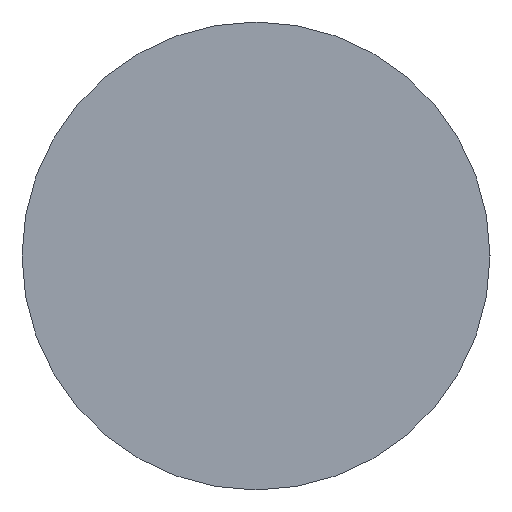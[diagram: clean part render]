
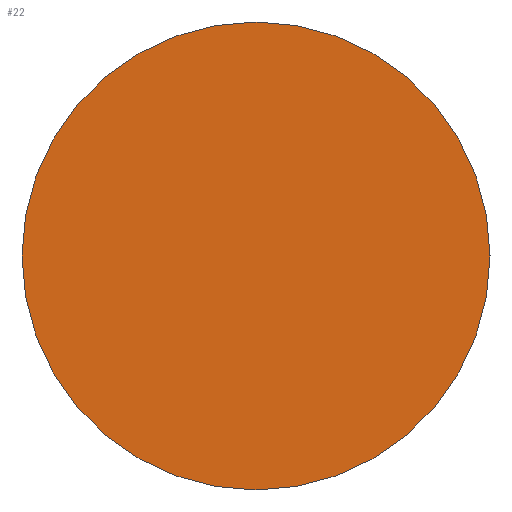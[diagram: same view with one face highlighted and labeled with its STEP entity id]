
A CAD part, left-side view. The second image highlights one B-rep face of the part: STEP entity #22.
In plain terms, the highlighted planar face has unit normal (-1, 0, 0).
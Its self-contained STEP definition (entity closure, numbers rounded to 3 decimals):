
#10 = AXIS2_PLACEMENT_3D ( 'NONE', #248, #263, #266 ) ;
#22 = ADVANCED_FACE ( 'NONE', ( #85 ), #238, .T. ) ;
#32 = AXIS2_PLACEMENT_3D ( 'NONE', #253, #250, #198 ) ;
#37 = DIRECTION ( 'NONE',  ( 0., -1., 0. ) ) ;
#61 = VERTEX_POINT ( 'NONE', #181 ) ;
#67 = EDGE_CURVE ( 'NONE', #202, #61, #90, .T. ) ;
#85 = FACE_OUTER_BOUND ( 'NONE', #219, .T. ) ;
#90 = CIRCLE ( 'NONE', #10, 6. ) ;
#95 = DIRECTION ( 'NONE',  ( -1., 0., 0. ) ) ;
#105 = ORIENTED_EDGE ( 'NONE', *, *, #106, .F. ) ;
#106 = EDGE_CURVE ( 'NONE', #61, #202, #160, .T. ) ;
#150 = ORIENTED_EDGE ( 'NONE', *, *, #67, .F. ) ;
#157 = CARTESIAN_POINT ( 'NONE',  ( 0., 6., 0. ) ) ;
#160 = CIRCLE ( 'NONE', #32, 6. ) ;
#181 = CARTESIAN_POINT ( 'NONE',  ( 0., -6., 0. ) ) ;
#187 = CARTESIAN_POINT ( 'NONE',  ( 0., 0., 0. ) ) ;
#198 = DIRECTION ( 'NONE',  ( 0., 1., 0. ) ) ;
#202 = VERTEX_POINT ( 'NONE', #157 ) ;
#219 = EDGE_LOOP ( 'NONE', ( #150, #105 ) ) ;
#237 = AXIS2_PLACEMENT_3D ( 'NONE', #187, #95, #37 ) ;
#238 = PLANE ( 'NONE',  #237 ) ;
#248 = CARTESIAN_POINT ( 'NONE',  ( 0., 0., 0. ) ) ;
#250 = DIRECTION ( 'NONE',  ( 1., 0., 0. ) ) ;
#253 = CARTESIAN_POINT ( 'NONE',  ( 0., 0., 0. ) ) ;
#263 = DIRECTION ( 'NONE',  ( 1., 0., 0. ) ) ;
#266 = DIRECTION ( 'NONE',  ( 0., 1., 0. ) ) ;
